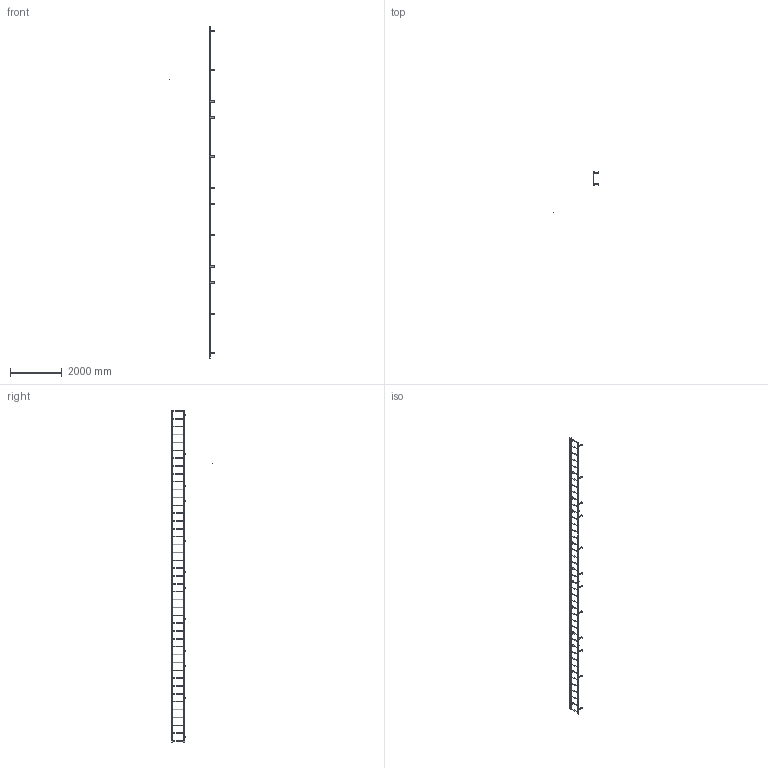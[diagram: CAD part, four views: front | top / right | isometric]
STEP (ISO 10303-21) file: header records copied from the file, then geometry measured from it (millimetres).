
FILE_DESCRIPTION(/* description */ (''),/* implementation_level */ '2;1');
FILE_NAME(/* name */ 'P:\MIKEL & KAREN\3570359 F43S SIMPLIFIED PART.stp',/* time_stamp */ '2018-07-02T16:04:55-04:00',/* author */ ('stephanie'),/* organization */ (''),/* preprocessor_version */ 'ST-DEVELOPER v16.1',/* originating_system */ 'Autodesk Inventor 2016',/* authorisation */ '');
FILE_SCHEMA (('AUTOMOTIVE_DESIGN { 1 0 10303 214 3 1 1 }'));
Length unit declared in the file: centimetre
Products named in the file (1): 3570359 F43S SIMPLIFIED PART
Bounding box: 1727.08 x 1603.05 x 12877.8 mm (x, y, z)
Volume: 22580273.1 mm3; surface area: 6784309.3 mm2
Topology: 46 solids, 46 shells, 690 faces, 1862 edges, 1240 vertices
Faces by surface type: plane 410, cylinder 280
Full cylindrical faces by diameter (mm): 0.254 x1, 14.287 x30, 19.05 x43, 22.225 x86
Entity records: 21137 total; most frequent: DIRECTION 3576, CARTESIAN_POINT 3401, ORIENTED_EDGE 3172, EDGE_CURVE 1586, AXIS2_PLACEMENT_3D 1299, VERTEX_POINT 1124, EDGE_LOOP 1082, LINE 978
